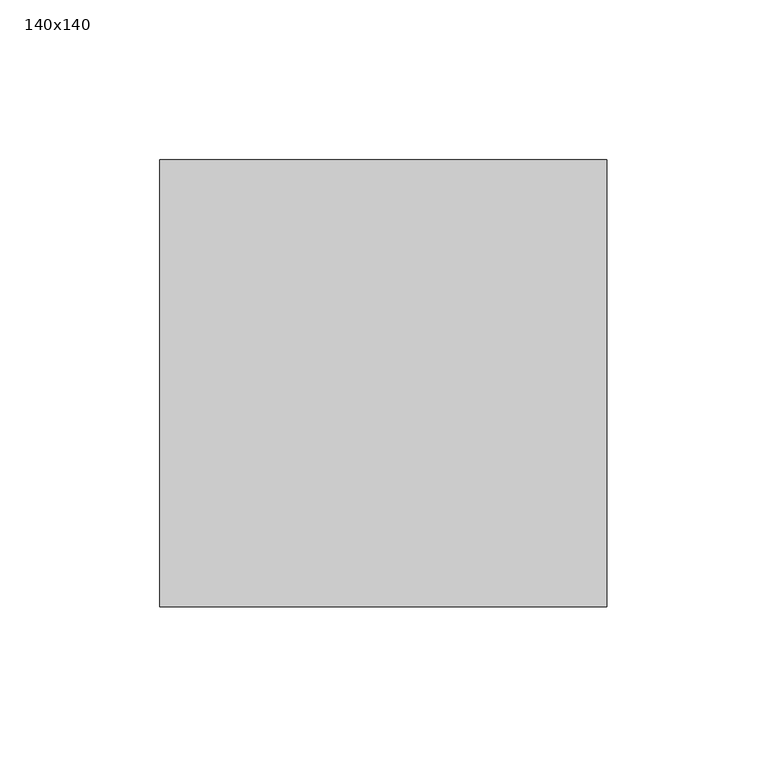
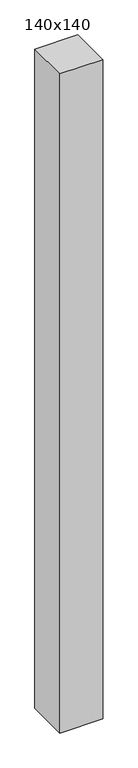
"""IFC4 building model written with IfcOpenShell, lengths in millimetres: column geometry, Søyle Tre Limtre : 140x140."""

from ifc_helpers import new_model, si_unit, frame, origin, place, context, project, spatial, polyline, outline, extrude, source, transform, mapped, element, save


def column_140x140_54508cc6(model_context):
    return source(origin(), model_context, "Body", "SweptSolid", [
        extrude(outline(polyline([(63.5290859, -72.3143992), (-76.4709141, -72.3143992), (-76.4709141, 67.6856008), (63.5290859, 67.6856008), (63.5290859, -72.3143992)])), frame((0.0, 0.0, 2430.0), z_axis=(0.0, 0.0, 1.0), x_axis=(1.0, 0.0, 0.0)), (0.0, 0.0, 1.0), 2270.0),
    ])


if __name__ == "__main__":
    model = new_model("IFC4")
    model_context = context("Model", 3, world=origin())
    ifc_project = project(units=[si_unit("LENGTHUNIT", "METRE", prefix="MILLI")], contexts=[model_context])
    site = spatial("IfcSite", under=ifc_project)
    building = spatial("IfcBuilding", under=site)
    placement = place(None, origin())
    column_140x140_shape = column_140x140_54508cc6(model_context)
    element("IfcColumn", 1, ObjectType="Søyle Tre Limtre : 140x140", at=placement, inside=building, context=model_context, shape_type="MappedRepresentation", body=[
        mapped(column_140x140_shape, transform((0.0, 0.0, 0.0), x_axis=(1.0, 0.0, 0.0), y_axis=(0.0, 1.0, 0.0), z_axis=(0.0, 0.0, 1.0))),
    ])
    save(model, "model.ifc")
